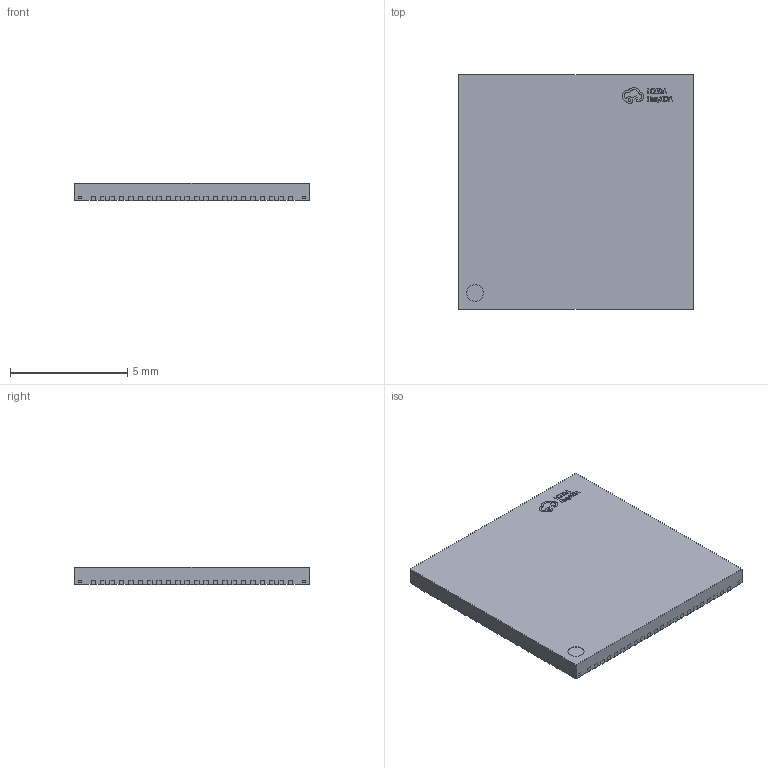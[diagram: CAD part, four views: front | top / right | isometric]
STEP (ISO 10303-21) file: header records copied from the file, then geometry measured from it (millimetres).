
FILE_DESCRIPTION(('Designed by EasyEDA Pro'),'2;1');
FILE_NAME('Open CASCADE Shape Model','2026-01-20T11:28:59',('Author'),( 'Open CASCADE'),'Open CASCADE STEP processor 7.6','Open CASCADE 7.8' ,'Unknown');
FILE_SCHEMA(('AUTOMOTIVE_DESIGN_CC2 { 1 2 10303 214 -1 1 5 4 }'));
Length unit declared in the file: millimetre
Products named in the file (4): PCBModel; lAb1-U3; QFN-88_L10.0-W10.0-P0.40-BL-EP6.75; COMPOUND
Assembly tree (3 placements, depth 4):
  PCBModel
    lAb1-U3
      QFN-88_L10.0-W10.0-P0.40-BL-EP6.75
        COMPOUND
Bounding box: 10 x 10 x 0.75 mm (x, y, z)
Surface area: 354.7 mm2
Topology: 191 solids, 191 shells, 2250 faces, 5588 edges, 3736 vertices
Faces by surface type: plane 1608, cylinder 530, bspline 112
Entity records: 90652 total; most frequent: CARTESIAN_POINT 13682, ORIENTED_EDGE 11176, DIRECTION 10704, EDGE_CURVE 5588, LINE 4300, VECTOR 4300, VERTEX_POINT 3736, AXIS2_PLACEMENT_3D 3202
